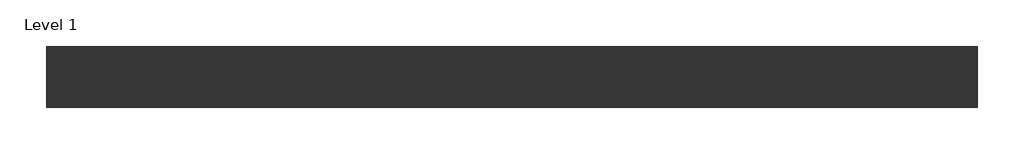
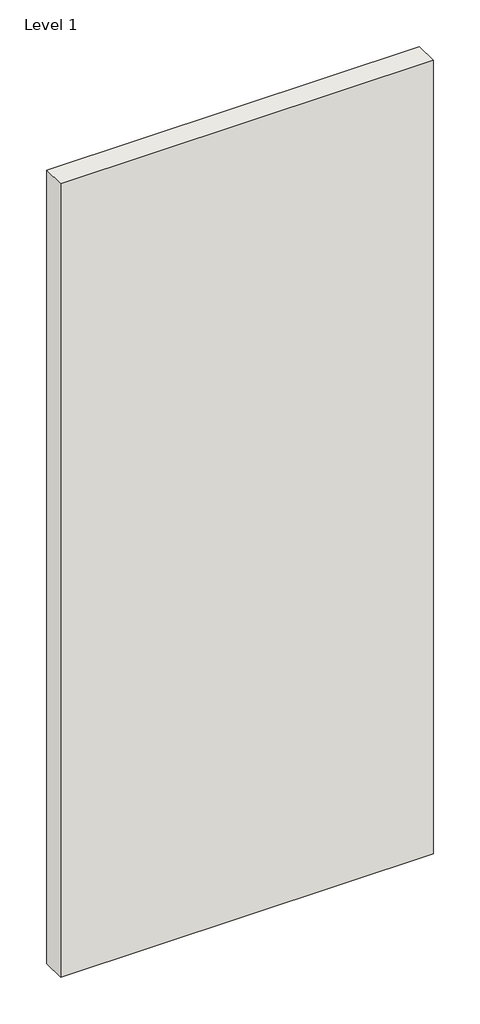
# One storey: 1 wall.
"""IFC4 building model written with IfcOpenShell, lengths in millimetres."""

from ifc_helpers import new_model, si_unit, origin, origin_with_axes, place, context, project, spatial, polyline, outline, extrude, element, save

model = new_model("IFC4")

# Units and contexts
model_context = context("Model", 3, world=origin())
ifc_project = project(units=[si_unit("LENGTHUNIT", "METRE", prefix="MILLI")], contexts=[model_context])

# Site, building, storey
site = spatial("IfcSite", under=ifc_project)
building = spatial("IfcBuilding", under=site)
storey = spatial("IfcBuildingStorey", under=building, Name="Level 1", Elevation=0.0)

# Wall
placement = place(None, origin())
element("IfcWall", 1, ObjectType="Tabique Simple – Placo® 78(48) BA15 + 48LM + PPM15 c/400 - 43,2 dBA", at=placement, inside=storey, context=model_context, shape_type="SweptSolid", body=[
    extrude(outline(polyline([(-27546.4711674, -75808.0523199), (-28746.4711674, -75808.0523199), (-28746.4711674, -75730.0523199), (-27546.4711674, -75730.0523199), (-27546.4711674, -75808.0523199)])), origin_with_axes(), (0.0, 0.0, 1.0), 2700.0),
])

save(model, "model.ifc")
